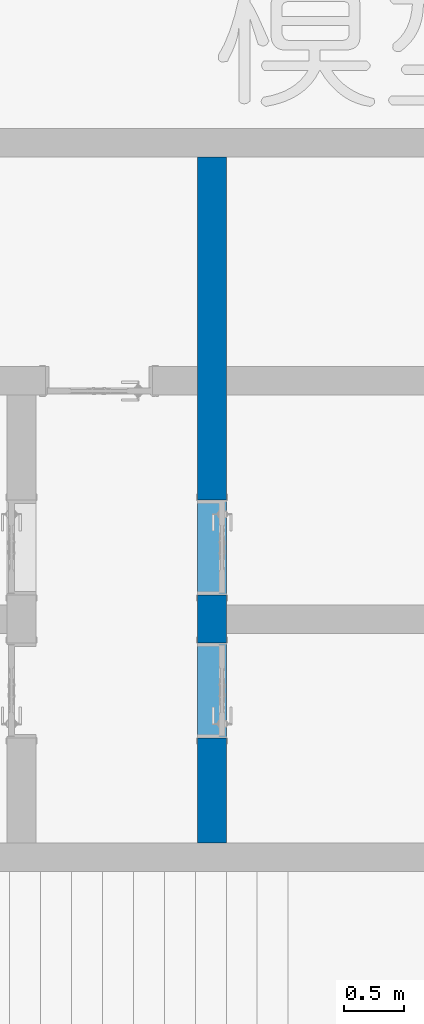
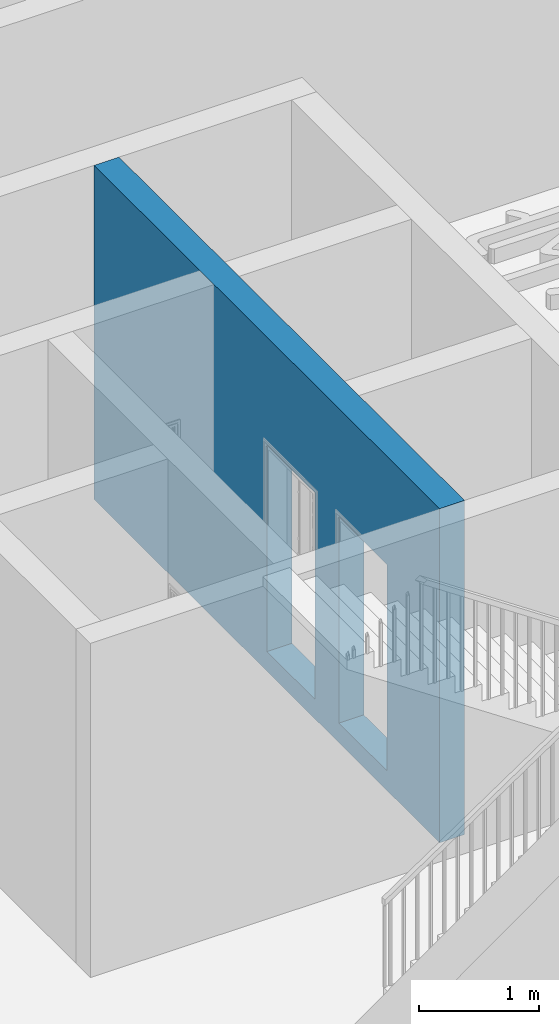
# One storey, part 18 of 24: 1 wall, 2 openings.
"""IFC2X3 building model written with IfcOpenShell, lengths in millimetres."""

from ifc_helpers import new_model, entity, si_unit, converted_unit, derived_unit, direction, frame, frame_2d, origin, place, context, subcontext, project, spatial, polyline, rectangle, extrude, clip, bounded_halfspace, material, layer, layer_set, layer_usage, type_object, element, save


model = new_model("IFC2X3")

# Units and contexts
model_context = context("Model", 3, precision=0.01, world=origin(), true_north=direction((6.12303176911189e-17, 1.0)))
body_context = subcontext(model_context, "Body", "Model", "MODEL_VIEW")
ifc_project = project(units=[si_unit("LENGTHUNIT", "METRE", prefix="MILLI"), si_unit("AREAUNIT", "SQUARE_METRE"), si_unit("VOLUMEUNIT", "CUBIC_METRE"), converted_unit("PLANEANGLEUNIT", "DEGREE", entity("IfcRatioMeasure", 0.0174532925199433), si_unit("PLANEANGLEUNIT", "RADIAN"), dimensions=[0, 0, 0, 0, 0, 0, 0]), si_unit("MASSUNIT", "GRAM", prefix="KILO"), derived_unit("MASSDENSITYUNIT", [(si_unit("MASSUNIT", "GRAM", prefix="KILO"), 1), (si_unit("LENGTHUNIT", "METRE"), -3)]), si_unit("TIMEUNIT", "SECOND"), si_unit("FREQUENCYUNIT", "HERTZ"), si_unit("THERMODYNAMICTEMPERATUREUNIT", "DEGREE_CELSIUS"), derived_unit("THERMALTRANSMITTANCEUNIT", [(si_unit("MASSUNIT", "GRAM", prefix="KILO"), 1), (si_unit("THERMODYNAMICTEMPERATUREUNIT", "KELVIN"), -1), (si_unit("TIMEUNIT", "SECOND"), -3)]), derived_unit("VOLUMETRICFLOWRATEUNIT", [(si_unit("LENGTHUNIT", "METRE"), 3), (si_unit("TIMEUNIT", "SECOND"), -1)]), si_unit("ELECTRICCURRENTUNIT", "AMPERE"), si_unit("ELECTRICVOLTAGEUNIT", "VOLT"), si_unit("POWERUNIT", "WATT"), si_unit("FORCEUNIT", "NEWTON", prefix="KILO"), si_unit("ILLUMINANCEUNIT", "LUX"), si_unit("LUMINOUSFLUXUNIT", "LUMEN"), si_unit("LUMINOUSINTENSITYUNIT", "CANDELA"), derived_unit("USERDEFINED", [(si_unit("MASSUNIT", "GRAM", prefix="KILO"), -1), (si_unit("LENGTHUNIT", "METRE"), -2), (si_unit("TIMEUNIT", "SECOND"), 3), (si_unit("LUMINOUSFLUXUNIT", "LUMEN"), 1)]), derived_unit("LINEARVELOCITYUNIT", [(si_unit("LENGTHUNIT", "METRE"), 1), (si_unit("TIMEUNIT", "SECOND"), -1)]), si_unit("PRESSUREUNIT", "PASCAL"), derived_unit("USERDEFINED", [(si_unit("LENGTHUNIT", "METRE"), -2), (si_unit("MASSUNIT", "GRAM", prefix="KILO"), 1), (si_unit("TIMEUNIT", "SECOND"), -2)])], contexts=[model_context])

# Site, building, storey
site_placement = place(None, origin())
site = spatial("IfcSite", under=ifc_project, at=site_placement, Name="表面", CompositionType="ELEMENT")
building_placement = place(site_placement, origin())
building = spatial("IfcBuilding", under=site, at=building_placement, CompositionType="ELEMENT")
storey_placement = place(building_placement, frame((0.0, 0.0, -3500.0)))
storey = spatial("IfcBuildingStorey", under=building, at=storey_placement, Name="-1F", CompositionType="ELEMENT", Elevation=-3500.0)

# Wall, openings
ifc_material_1 = material(Name="白色涂料")
ifc_layer_1 = layer(ifc_material_1, 10.0)
ifc_material_2 = material(Name="默认墙")
ifc_layer_2 = layer(ifc_material_2, 220.0)
ifc_layer_3 = layer(ifc_material_1, 10.0)
ifc_layer_set = layer_set([ifc_layer_1, ifc_layer_2, ifc_layer_3], Name="基本墙:粉刷墙240")
ifc_layer_usage = layer_usage(ifc_layer_set, "AXIS2", "NEGATIVE", 120.0)
wall_type = type_object("IfcWallType", Name="基本墙:粉刷墙240", PredefinedType="STANDARD", material=ifc_layer_set)
wall_placement = place(storey_placement, frame((-8530.24991264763, -5387.84591297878, 0.0), z_axis=(0.0, 0.0, 1.0), x_axis=(0.0, 1.0, 0.0)))
wall = element("IfcWallStandardCase", 1, at=wall_placement, inside=storey, type_object=wall_type, material=ifc_layer_usage, Name="基本墙:粉刷墙240", ObjectType="基本墙:粉刷墙240", context=body_context, shape_type="Clipping", body=[
    clip(extrude(rectangle(XDim=5759.99999999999, YDim=240.0, at=frame_2d((2880.0, -4.54747350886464e-13), x_axis=(-1.0, 0.0))), origin(), (0.0, 0.0, 1.0), 3399.99999999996), bounded_halfspace(frame((0.0, -120.0, 3400.0), z_axis=(0.0, 0.0, -1.0), x_axis=(-1.0, 0.0, 0.0)), True, frame((0.0, -120.0, 3400.0)), polyline([(0.0, 0.0), (1760.0, 0.0), (2000.0, 0.0), (3760.0, 0.0), (4000.0, 0.0), (5760.0, 0.0), (5760.0, 240.0), (4000.0, 240.0), (3760.0, 240.0), (0.0, 240.0), (0.0, 0.0)]))),
])
opening_1_placement = place(wall_placement, frame((1680.0, 120.0, 200.0)))
element("IfcOpeningElement", 2, at=opening_1_placement, cuts=wall, Name="装饰木门:M0821:1", ObjectType="Opening", context=body_context, shape_type="SweptSolid", body=[
    extrude(rectangle(XDim=2099.99999999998, YDim=800.0, at=frame_2d((1049.99999999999, 400.0), x_axis=(1.0, 0.0))), frame((0.0, 0.0, 0.0), z_axis=(0.0, -1.0, 0.0), x_axis=(0.0, 0.0, 1.0)), (0.0, 0.0, 1.0), 240.0),
])
opening_2_placement = place(wall_placement, frame((2880.0, 120.0, 200.0)))
element("IfcOpeningElement", 3, at=opening_2_placement, cuts=wall, Name="装饰木门:M0821:1", ObjectType="Opening", context=body_context, shape_type="SweptSolid", body=[
    extrude(rectangle(XDim=2099.99999999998, YDim=800.0, at=frame_2d((1049.99999999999, 400.0), x_axis=(1.0, 0.0))), frame((0.0, 0.0, 0.0), z_axis=(0.0, -1.0, 0.0), x_axis=(0.0, 0.0, 1.0)), (0.0, 0.0, 1.0), 240.0),
])

save(model, "model.ifc")
